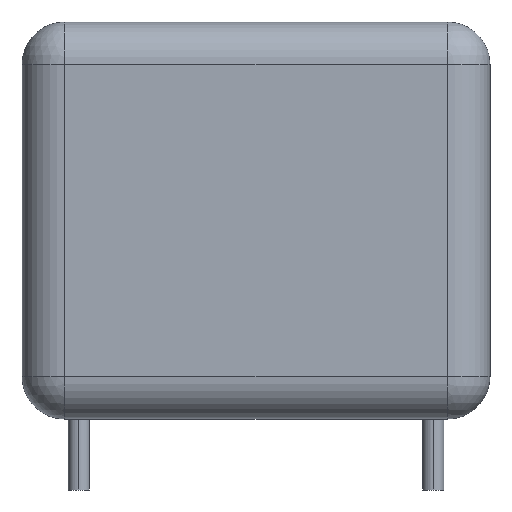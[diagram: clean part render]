
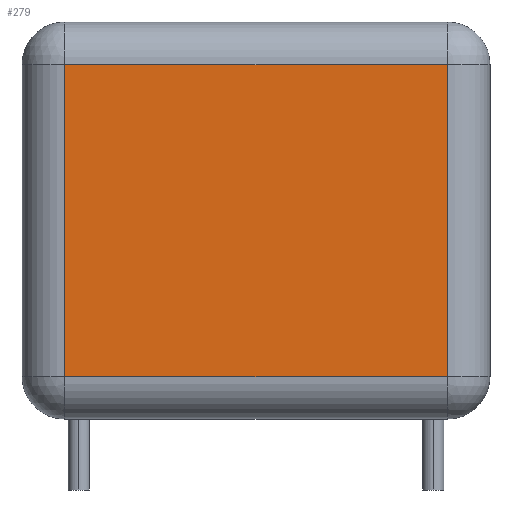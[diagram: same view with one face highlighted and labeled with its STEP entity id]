
A CAD part, front view. The second image highlights one B-rep face of the part: STEP entity #279.
In plain terms, the highlighted planar face has unit normal (0, -1, 0).
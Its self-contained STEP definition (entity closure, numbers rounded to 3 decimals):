
#240 = CARTESIAN_POINT ( 'NONE',  ( -5.4, -2.575, 1.2 ) ) ;
#241 = VERTEX_POINT ( 'NONE', #240 ) ;
#242 = CARTESIAN_POINT ( 'NONE',  ( 5.4, -2.575, 1.2 ) ) ;
#243 = VERTEX_POINT ( 'NONE', #242 ) ;
#244 = CARTESIAN_POINT ( 'NONE',  ( 6.6, -2.575, 1.2 ) ) ;
#245 = DIRECTION ( 'NONE',  ( 1., 0., 0. ) ) ;
#246 = VECTOR ( 'NONE', #245, 1000. ) ;
#247 = LINE ( 'NONE', #244, #246 ) ;
#248 = EDGE_CURVE ( 'NONE', #241, #243, #247, .T. ) ;
#249 = ORIENTED_EDGE ( 'NONE', *, *, #248, .T. ) ;
#250 = CARTESIAN_POINT ( 'NONE',  ( 5.4, -2.575, 10. ) ) ;
#251 = VERTEX_POINT ( 'NONE', #250 ) ;
#252 = CARTESIAN_POINT ( 'NONE',  ( 5.4, -2.575, 10. ) ) ;
#253 = DIRECTION ( 'NONE',  ( 0., 0., 1. ) ) ;
#254 = VECTOR ( 'NONE', #253, 1000. ) ;
#255 = LINE ( 'NONE', #252, #254 ) ;
#256 = EDGE_CURVE ( 'NONE', #243, #251, #255, .T. ) ;
#257 = ORIENTED_EDGE ( 'NONE', *, *, #256, .T. ) ;
#258 = CARTESIAN_POINT ( 'NONE',  ( -5.4, -2.575, 10. ) ) ;
#259 = VERTEX_POINT ( 'NONE', #258 ) ;
#260 = CARTESIAN_POINT ( 'NONE',  ( 6.6, -2.575, 10. ) ) ;
#261 = DIRECTION ( 'NONE',  ( -1., 0., 0. ) ) ;
#262 = VECTOR ( 'NONE', #261, 1000. ) ;
#263 = LINE ( 'NONE', #260, #262 ) ;
#264 = EDGE_CURVE ( 'NONE', #251, #259, #263, .T. ) ;
#265 = ORIENTED_EDGE ( 'NONE', *, *, #264, .T. ) ;
#266 = CARTESIAN_POINT ( 'NONE',  ( -5.4, -2.575, 0. ) ) ;
#267 = DIRECTION ( 'NONE',  ( 0., 0., -1. ) ) ;
#268 = VECTOR ( 'NONE', #267, 1000. ) ;
#269 = LINE ( 'NONE', #266, #268 ) ;
#270 = EDGE_CURVE ( 'NONE', #259, #241, #269, .T. ) ;
#271 = ORIENTED_EDGE ( 'NONE', *, *, #270, .T. ) ;
#272 = EDGE_LOOP ( 'NONE', ( #249, #257, #265, #271 ) ) ;
#273 = FACE_OUTER_BOUND ( 'NONE', #272, .T. ) ;
#274 = CARTESIAN_POINT ( 'NONE',  ( 6.6, -2.575, 0. ) ) ;
#275 = DIRECTION ( 'NONE',  ( 0., 1., 0. ) ) ;
#276 = DIRECTION ( 'NONE',  ( -1., 0., 0. ) ) ;
#277 = AXIS2_PLACEMENT_3D ( 'NONE', #274, #275, #276 ) ;
#278 = PLANE ( 'NONE', #277 ) ;
#279 = ADVANCED_FACE ( 'NONE', ( #273 ), #278, .F. ) ;
